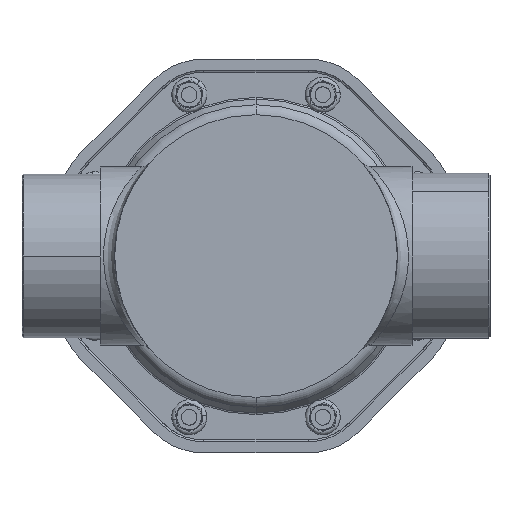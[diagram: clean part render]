
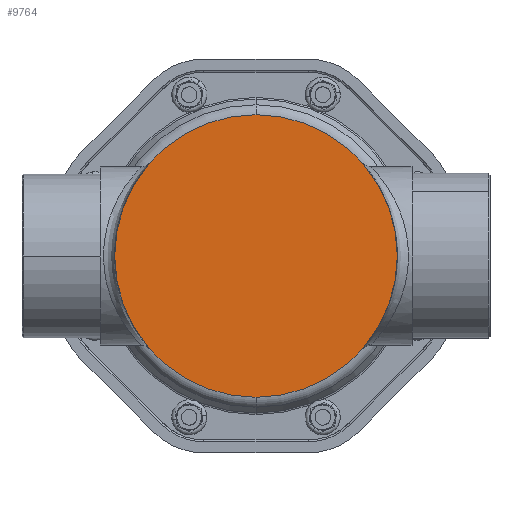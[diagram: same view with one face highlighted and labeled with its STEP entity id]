
A CAD part, front view. The second image highlights one B-rep face of the part: STEP entity #9764.
In plain terms, the highlighted planar face has unit normal (0, -1, 0).
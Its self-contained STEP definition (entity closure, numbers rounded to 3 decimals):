
#96 = DIRECTION ( 'NONE',  ( 0., 0., 1. ) ) ;
#351 = EDGE_LOOP ( 'NONE', ( #9347, #3901 ) ) ;
#2447 = AXIS2_PLACEMENT_3D ( 'NONE', #7762, #13107, #15921 ) ;
#2572 = PLANE ( 'NONE',  #12265 ) ;
#2798 = DIRECTION ( 'NONE',  ( 0., 1., 0. ) ) ;
#3901 = ORIENTED_EDGE ( 'NONE', *, *, #14147, .F. ) ;
#4509 = AXIS2_PLACEMENT_3D ( 'NONE', #12147, #2798, #16193 ) ;
#5393 = CARTESIAN_POINT ( 'NONE',  ( 0., 0., 0. ) ) ;
#7762 = CARTESIAN_POINT ( 'NONE',  ( 0., 0., 0. ) ) ;
#8878 = CARTESIAN_POINT ( 'NONE',  ( 0., 0., 38.05 ) ) ;
#9089 = VERTEX_POINT ( 'NONE', #11840 ) ;
#9347 = ORIENTED_EDGE ( 'NONE', *, *, #10091, .F. ) ;
#9540 = CIRCLE ( 'NONE', #2447, 38.05 ) ;
#9764 = ADVANCED_FACE ( 'NONE', ( #17189 ), #2572, .F. ) ;
#10091 = EDGE_CURVE ( 'NONE', #9089, #15558, #12538, .T. ) ;
#11840 = CARTESIAN_POINT ( 'NONE',  ( 0., 0., -38.05 ) ) ;
#12147 = CARTESIAN_POINT ( 'NONE',  ( 0., 0., 0. ) ) ;
#12164 = DIRECTION ( 'NONE',  ( 0., 1., 0. ) ) ;
#12265 = AXIS2_PLACEMENT_3D ( 'NONE', #5393, #12164, #96 ) ;
#12538 = CIRCLE ( 'NONE', #4509, 38.05 ) ;
#13107 = DIRECTION ( 'NONE',  ( 0., 1., 0. ) ) ;
#14147 = EDGE_CURVE ( 'NONE', #15558, #9089, #9540, .T. ) ;
#15558 = VERTEX_POINT ( 'NONE', #8878 ) ;
#15921 = DIRECTION ( 'NONE',  ( 0., 0., 1. ) ) ;
#16193 = DIRECTION ( 'NONE',  ( 0., 0., 1. ) ) ;
#17189 = FACE_OUTER_BOUND ( 'NONE', #351, .T. ) ;
